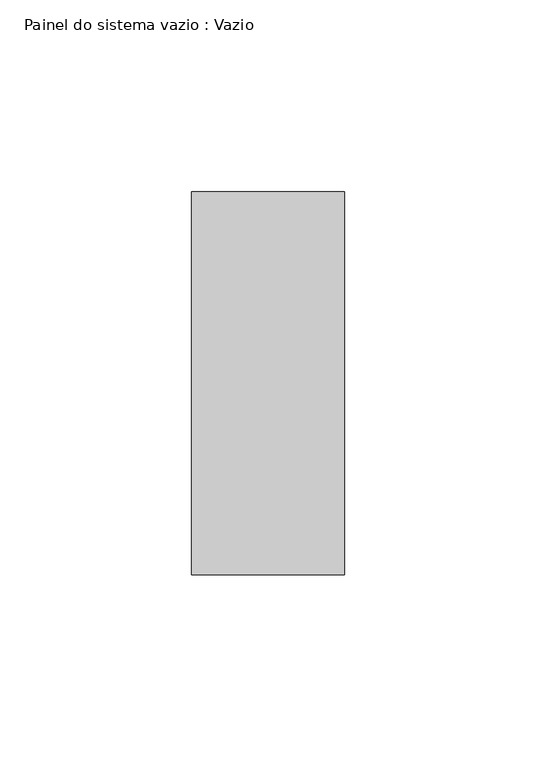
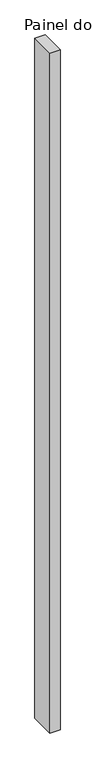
"""IFC4 building model written with IfcOpenShell, lengths in millimetres: plate geometry, Painel do sistema vazio : Vazio."""

from ifc_helpers import new_model, si_unit, origin, origin_with_axes, place, context, project, spatial, polyline, outline, extrude, source, transform, mapped, element, save


def painel_do_sistema_vazio_vazio_cd5fe1bf(model_context):
    return source(origin(), model_context, "Body", "SweptSolid", [
        extrude(outline(polyline([(20.0000002, -50.0), (-20.0000002, -50.0), (-20.0000002, 50.0), (20.0000002, 50.0), (20.0000002, -50.0)])), origin_with_axes(), (0.0, 0.0, 1.0), 2800.0),
    ])


if __name__ == "__main__":
    model = new_model("IFC4")
    model_context = context("Model", 3, world=origin())
    ifc_project = project(units=[si_unit("LENGTHUNIT", "METRE", prefix="MILLI")], contexts=[model_context])
    site = spatial("IfcSite", under=ifc_project)
    building = spatial("IfcBuilding", under=site)
    placement = place(None, origin())
    painel_do_sistema_vazio_vazio_shape = painel_do_sistema_vazio_vazio_cd5fe1bf(model_context)
    element("IfcPlate", 1, ObjectType="Painel do sistema vazio : Vazio", at=placement, inside=building, context=model_context, shape_type="MappedRepresentation", body=[
        mapped(painel_do_sistema_vazio_vazio_shape, transform((0.0, 0.0, 0.0), x_axis=(1.0, 0.0, 0.0), y_axis=(0.0, 1.0, 0.0), z_axis=(0.0, 0.0, 1.0))),
    ])
    save(model, "model.ifc")
